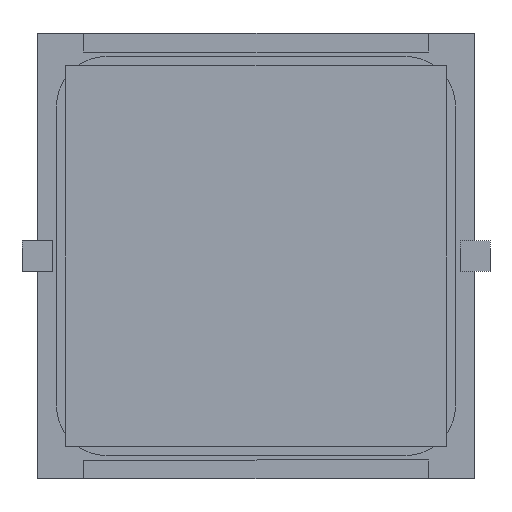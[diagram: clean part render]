
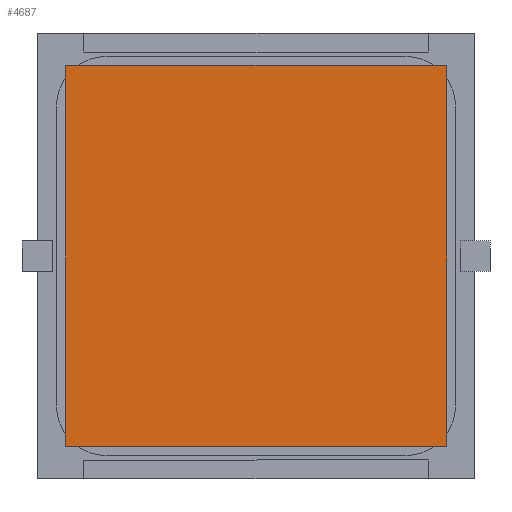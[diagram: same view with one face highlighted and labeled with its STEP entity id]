
A CAD part, front view. The second image highlights one B-rep face of the part: STEP entity #4687.
In plain terms, the highlighted planar face has unit normal (0, -1, 0).
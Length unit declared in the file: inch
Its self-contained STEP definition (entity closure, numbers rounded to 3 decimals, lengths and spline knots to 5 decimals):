
#153 = CARTESIAN_POINT ( 'NONE',  ( 0.5, -0.005, -0.5 ) ) ;
#413 = VERTEX_POINT ( 'NONE', #4821 ) ;
#625 = VECTOR ( 'NONE', #5093, 39.37008 ) ;
#637 = EDGE_CURVE ( 'NONE', #6997, #413, #1335, .T. ) ;
#683 = DIRECTION ( 'NONE',  ( 0., 0., -1. ) ) ;
#923 = CARTESIAN_POINT ( 'NONE',  ( 0.5, -0.005, 0.5 ) ) ;
#1068 = VERTEX_POINT ( 'NONE', #4227 ) ;
#1247 = ORIENTED_EDGE ( 'NONE', *, *, #2528, .F. ) ;
#1335 = LINE ( 'NONE', #3153, #3789 ) ;
#1692 = ORIENTED_EDGE ( 'NONE', *, *, #5392, .F. ) ;
#1779 = VECTOR ( 'NONE', #683, 39.37008 ) ;
#1803 = EDGE_CURVE ( 'NONE', #5726, #1068, #4304, .T. ) ;
#2432 = CARTESIAN_POINT ( 'NONE',  ( -0.5, -0.005, 0.5 ) ) ;
#2528 = EDGE_CURVE ( 'NONE', #413, #5726, #7365, .T. ) ;
#2976 = FACE_OUTER_BOUND ( 'NONE', #7149, .T. ) ;
#3153 = CARTESIAN_POINT ( 'NONE',  ( -0.5, -0.005, -0.5 ) ) ;
#3581 = PLANE ( 'NONE',  #6463 ) ;
#3789 = VECTOR ( 'NONE', #7331, 39.37008 ) ;
#3954 = DIRECTION ( 'NONE',  ( 1., 0., 0. ) ) ;
#4020 = CARTESIAN_POINT ( 'NONE',  ( -0.5, -0.005, -0.5 ) ) ;
#4144 = DIRECTION ( 'NONE',  ( 0., 1., 0. ) ) ;
#4227 = CARTESIAN_POINT ( 'NONE',  ( 0.5, -0.005, -0.5 ) ) ;
#4304 = LINE ( 'NONE', #153, #1779 ) ;
#4530 = ORIENTED_EDGE ( 'NONE', *, *, #1803, .F. ) ;
#4620 = VECTOR ( 'NONE', #3954, 39.37008 ) ;
#4687 = ADVANCED_FACE ( 'NONE', ( #2976 ), #3581, .F. ) ;
#4760 = DIRECTION ( 'NONE',  ( 0., 0., 1. ) ) ;
#4821 = CARTESIAN_POINT ( 'NONE',  ( -0.5, -0.005, 0.5 ) ) ;
#5043 = CARTESIAN_POINT ( 'NONE',  ( -0.5, -0.005, 0.5 ) ) ;
#5093 = DIRECTION ( 'NONE',  ( -1., 0., 0. ) ) ;
#5392 = EDGE_CURVE ( 'NONE', #1068, #6997, #6914, .T. ) ;
#5555 = CARTESIAN_POINT ( 'NONE',  ( -0.5, -0.005, -0.5 ) ) ;
#5726 = VERTEX_POINT ( 'NONE', #923 ) ;
#6463 = AXIS2_PLACEMENT_3D ( 'NONE', #2432, #4144, #4760 ) ;
#6618 = ORIENTED_EDGE ( 'NONE', *, *, #637, .F. ) ;
#6914 = LINE ( 'NONE', #4020, #625 ) ;
#6997 = VERTEX_POINT ( 'NONE', #5555 ) ;
#7149 = EDGE_LOOP ( 'NONE', ( #6618, #1692, #4530, #1247 ) ) ;
#7331 = DIRECTION ( 'NONE',  ( 0., 0., 1. ) ) ;
#7365 = LINE ( 'NONE', #5043, #4620 ) ;
